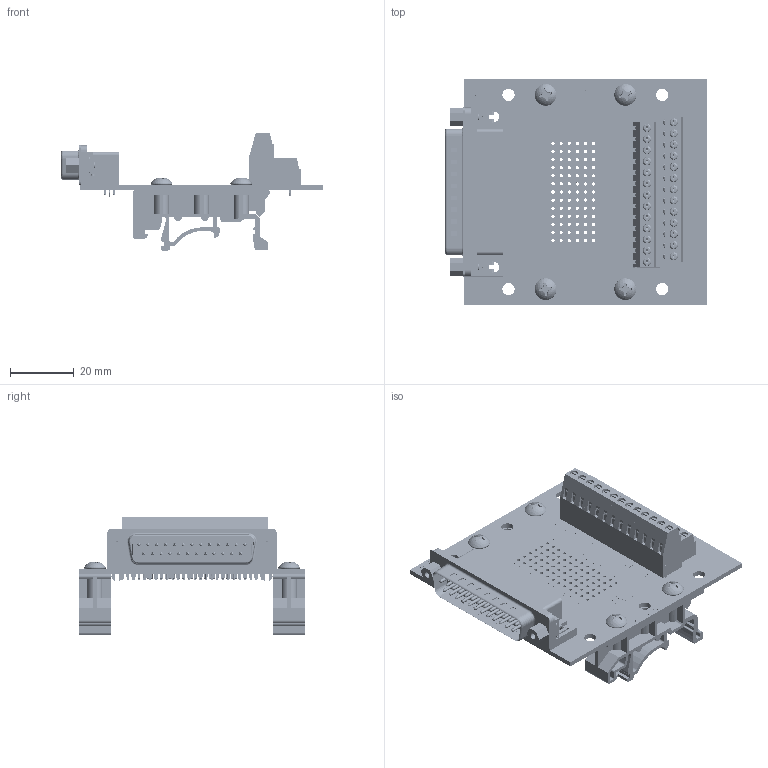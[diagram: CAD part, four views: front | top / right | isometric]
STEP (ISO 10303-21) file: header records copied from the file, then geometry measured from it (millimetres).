
FILE_DESCRIPTION (( 'STEP AP214' ), '1' );
FILE_NAME ('brkdd25m-r-din_rev_a.step', '2019-04-29T01:08:28', ( '' ), ( '' ), 'SwSTEP 2.0', 'SolidWorks 2017', '' );
FILE_SCHEMA (( 'AUTOMOTIVE_DESIGN' ));
Length unit declared in the file: inch
Products named in the file (7): Male Right Angle 25 Pin; BRKDD25M Board; brkdd25m-r-din_rev_a; Screw Terminal Double Decker 4; dinm01; Screw_SCSMPP-6-0.375_90184A127; Screw Terminal Double Decker 6
Assembly tree (13 placements, depth 2):
  brkdd25m-r-din_rev_a
    BRKDD25M Board
    dinm01  x2
    Male Right Angle 25 Pin
    Screw Terminal Double Decker 4  x2
    Screw Terminal Double Decker 6  x3
    Screw_SCSMPP-6-0.375_90184A127  x4
Bounding box: 82.1 x 71.12 x 36.77 mm (x, y, z)
Volume: 18979.5 mm3; surface area: 47427.7 mm2
Topology: 70 solids, 254 shells, 13266 faces, 34041 edges, 21280 vertices
Faces by surface type: plane 6056, cylinder 3468, bspline 3106, torus 358, cone 270, sphere 8
Entity records: 560284 total; most frequent: CARTESIAN_POINT 226765, ORIENTED_EDGE 48398, DIRECTION 36830, EDGE_CURVE 24312, VERTEX_POINT 15273, VECTOR 14032, LINE 14032, AXIS2_PLACEMENT_3D 11399
